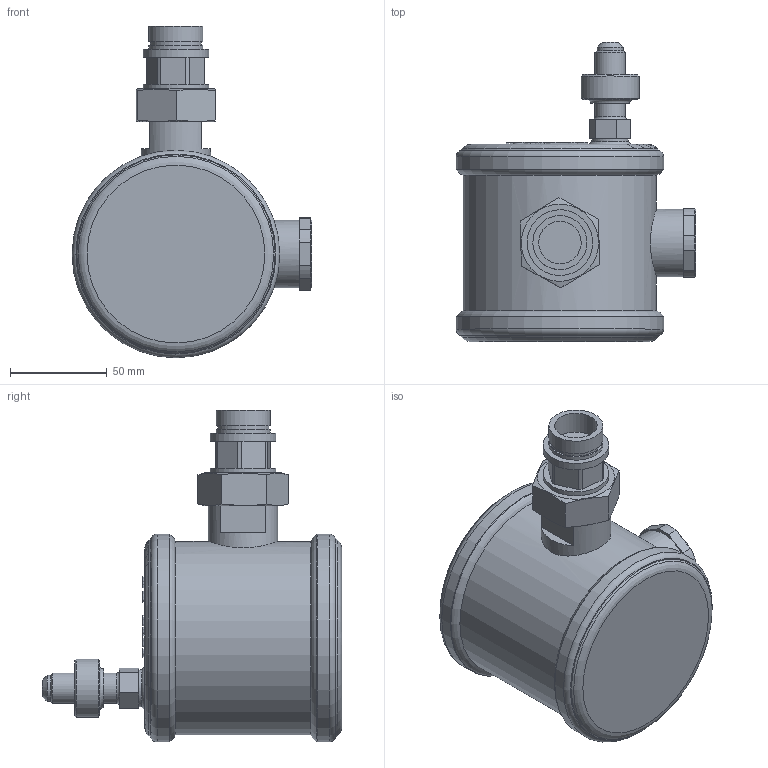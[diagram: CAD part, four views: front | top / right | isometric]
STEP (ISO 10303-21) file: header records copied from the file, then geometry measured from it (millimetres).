
FILE_DESCRIPTION(/* description */ (''),/* implementation_level */ '2;1');
FILE_NAME(/* name */ 'P:\ORE_ERM\OREL-OC\OREL-OC.stp',/* time_stamp */ '2017-10-05T08:41:44+02:00',/* author */ ('neufeld'),/* organization */ (''),/* preprocessor_version */ 'ST-DEVELOPER v16.1',/* originating_system */ 'Autodesk Inventor 2016',/* authorisation */ '');
FILE_SCHEMA (('AUTOMOTIVE_DESIGN { 1 0 10303 214 3 1 1 }'));
Length unit declared in the file: millimetre
Products named in the file (2): OREL-OC; OREL-OC_1
Assembly tree (1 placements, depth 2):
  OREL-OC_1
    OREL-OC
Bounding box: 124.15 x 155.1 x 171.75 mm (x, y, z)
Volume: 925081.5 mm3; surface area: 69042.4 mm2
Topology: 1 solids, 2 shells, 1191 faces, 3170 edges, 2100 vertices
Faces by surface type: plane 718, bspline 407, cylinder 39, cone 14, torus 13
Full cylindrical faces by diameter (mm): 7.2 x1, 11.2 x1, 13.5 x1, 15.7 x2, 19 x1, 22 x1, 24.2 x1, 26.492 x1, 28 x2, 30 x1, 34 x2, 35 x1, 35.7 x1, 35.9 x1, 36.6 x1, 100 x1, 107.5 x2
Entity records: 39698 total; most frequent: CARTESIAN_POINT 13036, ORIENTED_EDGE 6224, DIRECTION 3960, EDGE_CURVE 3106, LINE 2162, VECTOR 2162, VERTEX_POINT 2083, EDGE_LOOP 1355
